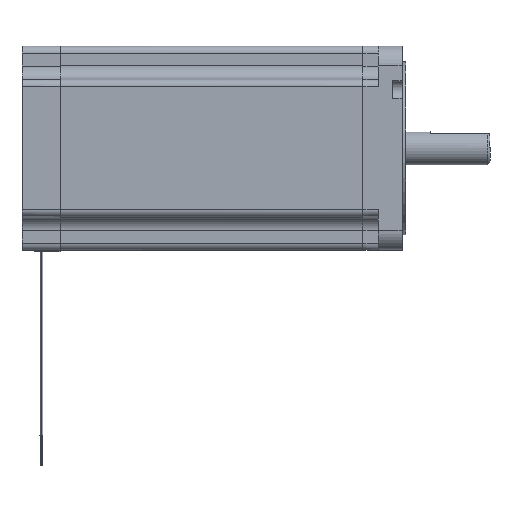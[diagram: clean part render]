
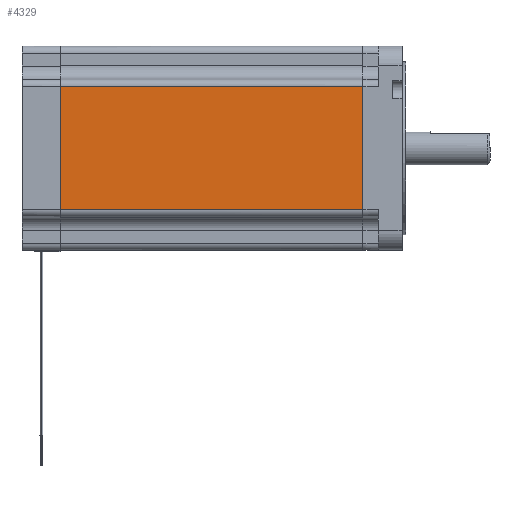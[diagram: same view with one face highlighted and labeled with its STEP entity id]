
A CAD part, left-side view. The second image highlights one B-rep face of the part: STEP entity #4329.
In plain terms, the highlighted planar face has unit normal (-1, 0, 0).
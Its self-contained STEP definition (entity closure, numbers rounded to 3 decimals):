
#3091=CARTESIAN_POINT('',(-42.93,-144.925,26.));
#3092=VERTEX_POINT('',#3091);
#3100=CARTESIAN_POINT('',(-42.93,-144.925,-26.));
#3101=VERTEX_POINT('',#3100);
#3102=CARTESIAN_POINT('',(-42.93,-144.925,26.));
#3103=DIRECTION('',(0.,0.,-1.));
#3104=VECTOR('',#3103,52.);
#3105=LINE('',#3102,#3104);
#3106=EDGE_CURVE('',#3092,#3101,#3105,.T.);
#4229=CARTESIAN_POINT('',(-42.93,-17.425,-26.));
#4230=VERTEX_POINT('',#4229);
#4231=CARTESIAN_POINT('',(-42.93,-144.925,-26.));
#4232=DIRECTION('',(0.,1.,0.));
#4233=VECTOR('',#4232,127.5);
#4234=LINE('',#4231,#4233);
#4235=EDGE_CURVE('',#3101,#4230,#4234,.T.);
#4306=CARTESIAN_POINT('',(-42.93,-38.175,0.));
#4307=DIRECTION('',(0.,0.,-1.));
#4308=DIRECTION('',(-1.,0.,-0.));
#4309=AXIS2_PLACEMENT_3D('',#4306,#4308,#4307);
#4310=PLANE('',#4309);
#4311=ORIENTED_EDGE('',*,*,#3106,.F.);
#4312=CARTESIAN_POINT('',(-42.93,-17.425,26.));
#4313=VERTEX_POINT('',#4312);
#4314=CARTESIAN_POINT('',(-42.93,-144.925,26.));
#4315=DIRECTION('',(0.,1.,0.));
#4316=VECTOR('',#4315,127.5);
#4317=LINE('',#4314,#4316);
#4318=EDGE_CURVE('',#3092,#4313,#4317,.T.);
#4319=ORIENTED_EDGE('E359',*,*,#4318,.T.);
#4320=CARTESIAN_POINT('',(-42.93,-17.425,26.));
#4321=DIRECTION('',(0.,0.,-1.));
#4322=VECTOR('',#4321,52.);
#4323=LINE('',#4320,#4322);
#4324=EDGE_CURVE('',#4313,#4230,#4323,.T.);
#4325=ORIENTED_EDGE('E360',*,*,#4324,.T.);
#4326=ORIENTED_EDGE('E360',*,*,#4235,.F.);
#4327=EDGE_LOOP('',(#4311,#4319,#4325,#4326));
#4328=FACE_OUTER_BOUND('',#4327,.T.);
#4329=ADVANCED_FACE('F144',(#4328),#4310,.T.);
